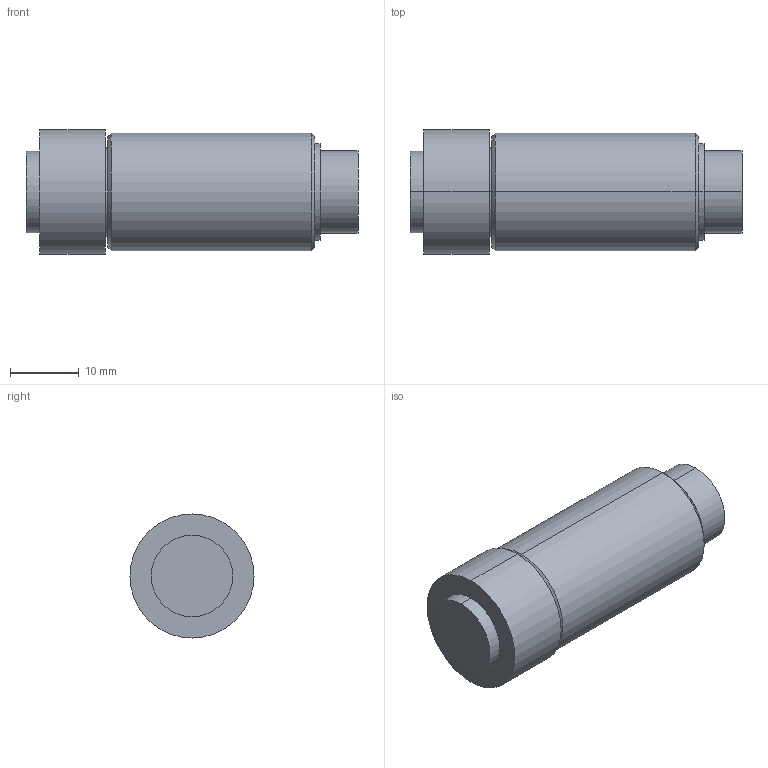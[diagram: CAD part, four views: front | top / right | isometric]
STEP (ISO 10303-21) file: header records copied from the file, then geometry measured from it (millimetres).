
FILE_DESCRIPTION(('Creo Elements/Direct Modeling STEP Export'),'2;1');
FILE_NAME('21HZA195_変換プラグ(P).stp','2021-06-15T11:20:00',(''),(''),'Creo Elements/Direct Modeling STEP processor for AP214 (Solid Model)','Creo Elements/Direct Modeling 18.1I 13-Aug-2016 (C) Parametric Technology GmbH','');
FILE_SCHEMA(('AUTOMOTIVE_DESIGN { 1 0 10303 214 1 1 1 1 }'));
Length unit declared in the file: millimetre
Products named in the file (2): 21HZA195
Assembly tree (1 placements, depth 2):
  21HZA195
    21HZA195
Bounding box: 48.15 x 18 x 18 mm (x, y, z)
Volume: 10212.4 mm3; surface area: 3142 mm2
Topology: 1 solids, 1 shells, 23 faces, 44 edges, 28 vertices
Faces by surface type: cylinder 12, plane 7, cone 4
Entity records: 569 total; most frequent: DIRECTION 94, ORIENTED_EDGE 88, CARTESIAN_POINT 83, EDGE_CURVE 44, AXIS2_PLACEMENT_3D 39, VERTEX_POINT 28, EDGE_LOOP 28, FACE_OUTER_BOUND 23
